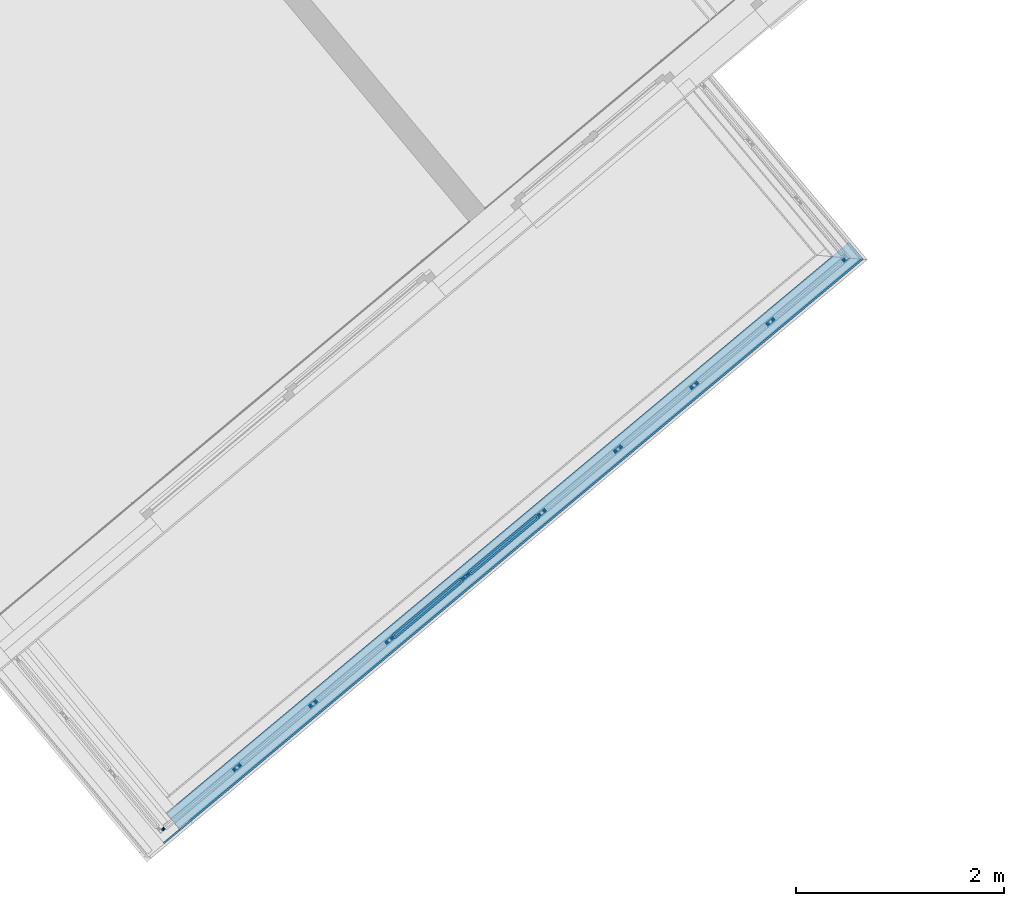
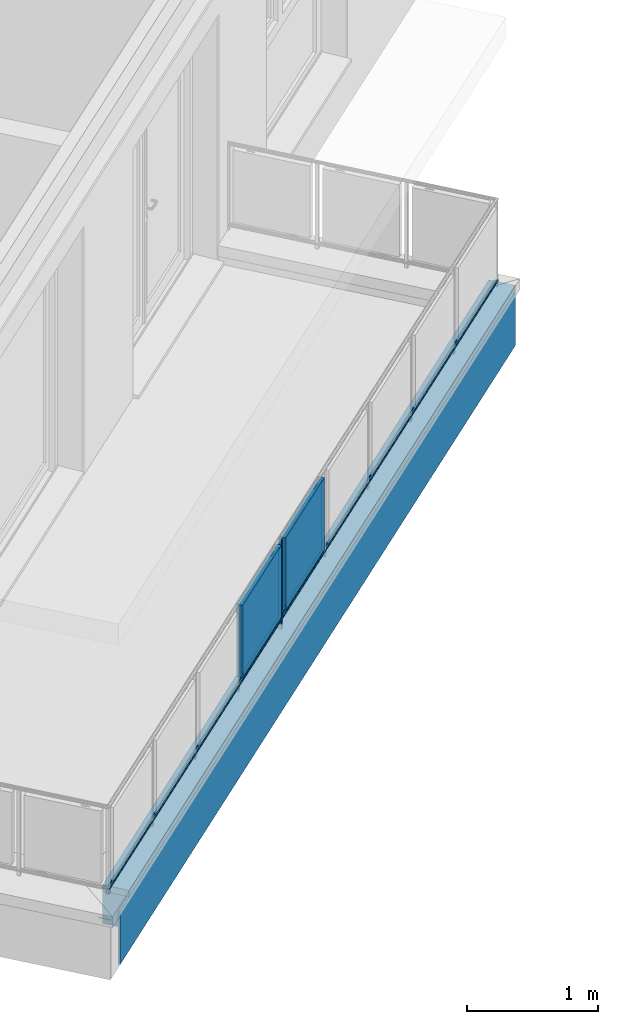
# One storey, part 21 of 53: 9 building element parts, 2 elements without a shape of their own.
"""IFC4 building model written with IfcOpenShell, lengths in metres."""

from ifc_helpers import new_model, entity, si_unit, converted_unit, derived_unit, direction, frame, origin_with_axes, place, context, subcontext, project, spatial, polygons, material, type_object, element, aggregate, save


model = new_model("IFC4")

# Units and contexts
model_context = context("Model", 3, precision=1e-05, world=origin_with_axes(), true_north=direction((0.0, 1.0)))
body_context = subcontext(model_context, "Body", "Model", "MODEL_VIEW")
ifc_project = project(units=[si_unit("LENGTHUNIT", "METRE"), si_unit("AREAUNIT", "SQUARE_METRE"), si_unit("VOLUMEUNIT", "CUBIC_METRE"), converted_unit("PLANEANGLEUNIT", "DEGREE", entity("IfcPlaneAngleMeasure", 0.0174532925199), si_unit("PLANEANGLEUNIT", "RADIAN"), dimensions=[0, 0, 0, 0, 0, 0, 0]), converted_unit("TIMEUNIT", "Year", entity("IfcTimeMeasure", 31556926.0), si_unit("TIMEUNIT", "SECOND"), dimensions=[0, 0, 1, 0, 0, 0, 0]), si_unit("MASSUNIT", "GRAM", prefix="KILO"), si_unit("THERMODYNAMICTEMPERATUREUNIT", "DEGREE_CELSIUS"), si_unit("LUMINOUSINTENSITYUNIT", "LUMEN"), si_unit("ENERGYUNIT", "JOULE", prefix="MEGA"), derived_unit("THERMALCONDUCTANCEUNIT", [(si_unit("POWERUNIT", "WATT"), 1), (si_unit("LENGTHUNIT", "METRE"), -1), (si_unit("THERMODYNAMICTEMPERATUREUNIT", "KELVIN"), -1)]), derived_unit("SPECIFICHEATCAPACITYUNIT", [(si_unit("ENERGYUNIT", "JOULE"), 1), (si_unit("MASSUNIT", "GRAM", prefix="KILO"), -1), (si_unit("THERMODYNAMICTEMPERATUREUNIT", "KELVIN"), -1)]), derived_unit("MASSDENSITYUNIT", [(si_unit("MASSUNIT", "GRAM", prefix="KILO"), 1), (si_unit("VOLUMEUNIT", "CUBIC_METRE"), -1)])], contexts=[model_context])

# Site, building, storey
site_placement = place(None, frame((-0.00153261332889, -0.00661245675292, 0.0), z_axis=(0.0, 0.0, 1.0), x_axis=(1.0, 0.0, 0.0)))
site = spatial("IfcSite", under=ifc_project, at=site_placement, Name="Gelände", CompositionType="ELEMENT")
building_placement = place(site_placement, origin_with_axes())
building = spatial("IfcBuilding", under=site, at=building_placement, Name="Gebäude", CompositionType="ELEMENT")
storey_placement = place(building_placement, frame((0.0, 0.0, 2.74), z_axis=(0.0, 0.0, 1.0), x_axis=(1.0, 0.0, 0.0)))
storey = spatial("IfcBuildingStorey", under=building, at=storey_placement, Name="OG1", CompositionType="ELEMENT", Elevation=2.74)

# Wall, building element parts
wall_type = type_object("IfcWallType", Name="Bauteil - Attika Balkon 356 x 610", PredefinedType="NOTDEFINED")
wall_placement = place(storey_placement, frame((0.456081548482, 6.75437498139, -0.2), z_axis=(0.0, 0.0, 1.0), x_axis=(0.767288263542, 0.641302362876, 0.0)))
wall = element("IfcWall", 1, at=wall_placement, inside=storey, type_object=wall_type, Name="Wand-003", PredefinedType="NOTDEFINED")
ifc_material_1 = material(Name="Stahlbeton")
building_element_part_1_placement = place(wall_placement, origin_with_axes())
building_element_part_1 = element("IfcBuildingElementPart", 2, at=building_element_part_1_placement, material=ifc_material_1, Name="Stahlbeton", PredefinedType="NOTDEFINED", context=body_context, shape_type="Tessellation", body=[
    polygons([(8.73385592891, -0.19999996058, 0.498915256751), (8.73385592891, -0.199999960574, 0.500000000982), (0.199908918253, -0.199999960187, 0.500000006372), (0.199908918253, -0.19999996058, 0.498915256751), (0.199908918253, -0.19999996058, 0.498822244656), (0.199908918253, -0.19999996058, 0.496604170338), (0.199908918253, -0.19999996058, 0.491006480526), (0.199908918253, -0.19999996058, 0.488695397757), (0.199908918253, -0.19999996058, 0.334999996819), (0.199908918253, -0.19999996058, 0.200000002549), (8.73385592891, -0.19999996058, 0.2), (8.73385592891, -0.19999996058, 0.334999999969), (8.73385592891, -0.19999996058, 0.496604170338), (8.73340609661, -1.0464678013e-09, 0.500000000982), (8.73340609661, -1.04714992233e-09, 0.498915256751), (0.200000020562, -6.59100329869e-10, 0.500000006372), (0.200000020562, -1.04714903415e-09, 0.498915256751), (0.200000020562, -1.04714903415e-09, 0.498822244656), (0.200000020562, -1.04714903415e-09, 0.496604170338), (0.200000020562, -1.04714903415e-09, 0.491006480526), (0.200000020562, -1.04714903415e-09, 0.488695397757), (0.200000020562, -1.05297282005e-09, 0.334999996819), (0.200000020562, -1.05297193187e-09, 0.200000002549), (8.73340609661, -1.05297282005e-09, 0.2), (8.73340609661, -1.05297282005e-09, 0.334999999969), (8.73340609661, -1.04714992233e-09, 0.496604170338)], [[[1, 2, 3, 4, 5, 6, 7, 8, 9, 10, 11, 12, 13]], [[14, 2, 1, 15]], [[2, 14, 16, 3]], [[4, 3, 16, 17]], [[4, 17, 18, 5]], [[5, 18, 19, 6]], [[6, 19, 20, 7]], [[7, 20, 21, 8]], [[8, 21, 22, 9]], [[9, 22, 23, 10]], [[24, 11, 10, 23]], [[25, 12, 11, 24]], [[26, 13, 12, 25]], [[15, 1, 13, 26]], [[14, 15, 26, 25, 22, 21, 20, 19, 18, 17, 16]], [[25, 24, 23, 22]]], closed=True),
])
ifc_material_2 = material(Name="Brettschichtholz")
building_element_part_2_placement = place(wall_placement, origin_with_axes())
building_element_part_2 = element("IfcBuildingElementPart", 3, at=building_element_part_2_placement, material=ifc_material_2, Name="Brettschichtholz", PredefinedType="NOTDEFINED", context=body_context, shape_type="Tessellation", body=[
    polygons([(0.200000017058, 0.0, 0.51136132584), (0.199902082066, -0.214999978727, 0.51136132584), (0.199902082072, -0.214999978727, 0.511410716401), (0.200000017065, 0.0, 0.511410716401), (0.200000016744, 0.0, 0.509099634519), (0.199902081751, -0.214999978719, 0.509099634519), (0.199902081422, -0.214999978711, 0.506731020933), (0.199902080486, -0.214999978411, 0.500000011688), (8.7488897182, -0.214999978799, 0.499999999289), (8.7488897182, -0.214999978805, 0.509099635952), (8.74888971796, -0.214999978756, 0.511410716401), (8.74888971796, -0.214999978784, 0.519273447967), (8.74888971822, -0.214999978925, 0.56000000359), (0.19990208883, -0.214999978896, 0.560000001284), (0.199902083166, -0.214999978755, 0.519273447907), (0.199902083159, -0.214999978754, 0.519224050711), (0.199902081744, -0.214999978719, 0.509050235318), (0.200000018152, 0.0, 0.519224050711), (0.200000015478, 3.31760396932e-10, 0.500000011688), (0.200000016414, 0.0, 0.506731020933), (0.200000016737, 0.0, 0.509050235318), (0.200000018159, 0.0, 0.519273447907), (0.200000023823, -1.53405288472e-10, 0.560000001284), (8.74840614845, -1.82521553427e-10, 0.56000000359), (8.74840614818, 0.0, 0.519273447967), (8.74840614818, 0.0, 0.511410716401), (8.74840614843, 0.0, 0.509099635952), (8.74840614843, 0.0, 0.499999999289), (8.74842896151, -0.010142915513, 0.559999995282), (8.74856391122, -0.0701429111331, 0.559999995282), (8.74869882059, -0.130124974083, 0.559999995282), (8.74883377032, -0.190124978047, 0.559999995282), (0.199913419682, -0.190124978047, 0.559999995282), (0.199940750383, -0.130124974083, 0.559999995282), (0.19996807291, -0.0701429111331, 0.559999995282), (0.199995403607, -0.010142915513, 0.559999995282)], [[[1, 2, 3, 4]], [[5, 6, 2, 1]], [[7, 8, 9, 10, 11, 12, 13, 14, 15, 16, 3, 2, 6, 17]], [[4, 3, 16, 18]], [[19, 20, 21, 5, 1, 4, 18, 22, 23, 24, 25, 26, 27, 28]], [[6, 5, 21, 17]], [[19, 8, 7, 20]], [[8, 19, 28, 9]], [[28, 27, 10, 9]], [[27, 26, 11, 10]], [[26, 25, 12, 11]], [[29, 30, 31, 32, 13, 12, 25, 24]], [[33, 14, 13, 32]], [[34, 35, 36, 23, 22, 15, 14, 33]], [[18, 16, 15, 22]], [[20, 7, 17, 21]], [[23, 36, 29, 24]], [[36, 35, 30, 29]], [[35, 34, 31, 30]], [[34, 33, 32, 31]]], closed=True),
])
ifc_material_3 = material(Name="Zementputz")
building_element_part_3_placement = place(wall_placement, origin_with_axes())
building_element_part_3 = element("IfcBuildingElementPart", 4, at=building_element_part_3_placement, material=ifc_material_3, Name="Zementputz", PredefinedType="NOTDEFINED", context=body_context, shape_type="Tessellation", body=[
    polygons([(-9.11052132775e-05, -0.19999996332, 0.500000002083), (-9.79378946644e-05, -0.214999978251, 0.500000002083), (8.7488897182, -0.214999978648, 0.499999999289), (8.74885598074, -0.199999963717, 0.499999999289), (-9.79378955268e-05, -0.214999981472, 0.498915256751), (-9.11052128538e-05, -0.199999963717, 0.498915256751), (-9.79378954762e-05, -0.214999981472, 0.498822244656), (-9.79378942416e-05, -0.214999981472, 0.496604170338), (-9.7937891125e-05, -0.214999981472, 0.491006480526), (-9.79378898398e-05, -0.214999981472, 0.488695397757), (-9.79378042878e-05, -0.214999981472, 0.335), (-9.79377291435e-05, -0.214999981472, 0.200000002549), (-9.79378948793e-05, -0.214999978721, 0.0), (8.7488884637, -0.214999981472, 0.0), (8.74885477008, -0.199999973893, 0.0), (8.74885598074, -0.199999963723, 0.200000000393), (-9.1105046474e-05, -0.199999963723, 0.200000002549), (-9.11051216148e-05, -0.199999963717, 0.335), (-9.11052071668e-05, -0.199999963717, 0.488695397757), (-9.11052084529e-05, -0.199999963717, 0.491006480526), (-9.11052115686e-05, -0.199999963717, 0.496604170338), (-9.11052128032e-05, -0.199999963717, 0.498822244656), (-9.11052168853e-05, -0.199999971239, 0.0)], [[[1, 2, 3, 4]], [[5, 2, 1, 6]], [[2, 5, 7, 8, 9, 10, 11, 12, 13, 14, 3]], [[4, 3, 14, 15, 16]], [[6, 1, 4, 16, 17, 18, 19, 20, 21, 22]], [[5, 6, 22, 7]], [[7, 22, 21, 8]], [[8, 21, 20, 9]], [[9, 20, 19, 10]], [[10, 19, 18, 11]], [[11, 18, 17, 12]], [[12, 17, 23, 13]], [[13, 23, 15, 14]], [[23, 17, 16, 15]]], closed=True),
])
aggregate(wall, [building_element_part_1, building_element_part_2, building_element_part_3])

# Space
space_placement = place(storey_placement, frame((5.82112883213, 13.939405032, 0.22), z_axis=(0.0, 0.0, 1.0), x_axis=(-0.766948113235, -0.641709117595, 0.0)))
space = spatial("IfcSpace", under=storey, at=space_placement, CompositionType="ELEMENT", PredefinedType="NOTDEFINED")

# Railing, building element parts
railing_type = type_object("IfcRailingType", Name="Geländerart", PredefinedType="NOTDEFINED")
railing_placement = place(space_placement, frame((8.7233739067, 0.0, 0.16), z_axis=(0.0, 0.0, 1.0), x_axis=(-0.766948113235, 0.641709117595, 0.0)))
railing = element("IfcRailing", 5, at=railing_placement, inside=space, type_object=railing_type, Name="Geländer - 001", PredefinedType="NOTDEFINED")
ifc_material_4 = material(Name="Aluminium")
building_element_part_4_placement = place(railing_placement, origin_with_axes())
building_element_part_4 = element("IfcBuildingElementPart", 6, at=building_element_part_4_placement, material=ifc_material_4, Name="Aluminium", PredefinedType="NOTDEFINED", context=body_context, shape_type="Tessellation", body=[
    polygons([(1.43045725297, -1.61164879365, 0.07), (1.43042846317, -1.61196985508, 0.072604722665), (7.99343033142, 3.8734113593, 0.072604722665), (7.99310948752, 3.8734401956, 0.07), (1.43042846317, -1.61196985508, 0.067395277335), (1.43034296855, -1.61292328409, 0.0648696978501), (1.43020336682, -1.61448011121, 0.0625), (1.43001389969, -1.61659303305, 0.0603581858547), (1.42978032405, -1.61919784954, 0.0585093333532), (1.42950973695, -1.62221541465, 0.0570096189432), (1.42921036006, -1.62555404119, 0.0559046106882), (1.42889128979, -1.62911228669, 0.0552278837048), (1.42856222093, -1.63278203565, 0.055), (1.42823315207, -1.63645178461, 0.0552278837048), (1.4279140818, -1.64001003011, 0.0559046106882), (1.42761470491, -1.64334865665, 0.0570096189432), (1.42734411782, -1.64636622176, 0.0585093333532), (1.42711054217, -1.64897103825, 0.0603581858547), (1.42692107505, -1.65108396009, 0.0625), (1.42678147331, -1.65264078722, 0.0648696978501), (1.42669597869, -1.65359421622, 0.067395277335), (1.42666718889, -1.65391527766, 0.07), (1.42669597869, -1.65359421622, 0.072604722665), (1.42678147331, -1.65264078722, 0.0751303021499), (1.42692107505, -1.65108396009, 0.0775), (1.42711054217, -1.64897103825, 0.0796418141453), (1.42734411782, -1.64636622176, 0.0814906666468), (1.42761470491, -1.64334865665, 0.0829903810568), (1.4279140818, -1.64001003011, 0.0840953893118), (1.42823315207, -1.63645178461, 0.0847721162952), (1.42856222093, -1.63278203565, 0.085), (1.42889128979, -1.62911228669, 0.0847721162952), (1.42921036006, -1.62555404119, 0.0840953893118), (1.42950973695, -1.62221541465, 0.0829903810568), (1.42978032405, -1.61919784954, 0.0814906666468), (1.43001389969, -1.61659303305, 0.0796418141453), (1.43020336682, -1.61448011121, 0.0775), (1.43034296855, -1.61292328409, 0.0751303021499), (7.99438311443, 3.87332572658, 0.0751303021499), (7.99593888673, 3.87318589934, 0.0775), (7.99805037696, 3.87299612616, 0.0796418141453), (8.00065342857, 3.87276217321, 0.0814906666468), (8.00366894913, 3.87249114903, 0.0829903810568), (8.0070053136, 3.87219128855, 0.0840953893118), (8.01056114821, 3.87187170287, 0.0847721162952), (8.01422841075, 3.87154210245, 0.085), (8.01789567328, 3.87121250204, 0.0847721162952), (8.02145150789, 3.87089291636, 0.0840953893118), (8.02478787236, 3.87059305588, 0.0829903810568), (8.02780339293, 3.8703220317, 0.0814906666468), (8.03040644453, 3.87008807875, 0.0796418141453), (8.03251793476, 3.86989830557, 0.0775), (8.03407370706, 3.86975847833, 0.0751303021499), (8.03502649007, 3.86967284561, 0.072604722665), (8.03534733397, 3.86964400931, 0.07), (8.03502649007, 3.86967284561, 0.067395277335), (8.03407370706, 3.86975847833, 0.0648696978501), (8.03251793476, 3.86989830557, 0.0625), (8.03040644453, 3.87008807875, 0.0603581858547), (8.02780339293, 3.8703220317, 0.0585093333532), (8.02478787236, 3.87059305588, 0.0570096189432), (8.02145150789, 3.87089291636, 0.0559046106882), (8.01789567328, 3.87121250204, 0.0552278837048), (8.01422841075, 3.87154210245, 0.055), (8.01056114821, 3.87187170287, 0.0552278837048), (8.0070053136, 3.87219128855, 0.0559046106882), (8.00366894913, 3.87249114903, 0.0570096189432), (8.00065342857, 3.87276217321, 0.0585093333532), (7.99805037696, 3.87299612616, 0.0603581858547), (7.99593888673, 3.87318589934, 0.0625), (7.99438311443, 3.87332572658, 0.0648696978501), (7.99343033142, 3.8734113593, 0.067395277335)], [[[1, 2, 3, 4]], [[1, 5, 6, 7, 8, 9, 10, 11, 12, 13, 14, 15, 16, 17, 18, 19, 20, 21, 22, 23, 24, 25, 26, 27, 28, 29, 30, 31, 32, 33, 34, 35, 36, 37, 38, 2]], [[2, 38, 39, 3]], [[4, 3, 39, 40, 41, 42, 43, 44, 45, 46, 47, 48, 49, 50, 51, 52, 53, 54, 55, 56, 57, 58, 59, 60, 61, 62, 63, 64, 65, 66, 67, 68, 69, 70, 71, 72]], [[5, 1, 4, 72]], [[6, 5, 72, 71]], [[7, 6, 71, 70]], [[8, 7, 70, 69]], [[9, 8, 69, 68]], [[10, 9, 68, 67]], [[11, 10, 67, 66]], [[12, 11, 66, 65]], [[13, 12, 65, 64]], [[14, 13, 64, 63]], [[15, 14, 63, 62]], [[16, 15, 62, 61]], [[17, 16, 61, 60]], [[18, 17, 60, 59]], [[19, 18, 59, 58]], [[20, 19, 58, 57]], [[21, 20, 57, 56]], [[22, 21, 56, 55]], [[23, 22, 55, 54]], [[24, 23, 54, 53]], [[25, 24, 53, 52]], [[26, 25, 52, 51]], [[27, 26, 51, 50]], [[28, 27, 50, 49]], [[29, 28, 49, 48]], [[30, 29, 48, 47]], [[31, 30, 47, 46]], [[32, 31, 46, 45]], [[33, 32, 45, 44]], [[34, 33, 44, 43]], [[35, 34, 43, 42]], [[36, 35, 42, 41]], [[37, 36, 41, 40]], [[38, 37, 40, 39]]], closed=True),
])
ifc_material_5 = material(Name="Profilit")
building_element_part_5_placement = place(railing_placement, origin_with_axes())
building_element_part_5 = element("IfcBuildingElementPart", 7, at=building_element_part_5_placement, material=ifc_material_5, Name="Profilit", PredefinedType="NOTDEFINED", context=body_context, shape_type="Tessellation", body=[
    polygons([(4.29923821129, 0.77957247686, 0.135), (3.66724499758, 0.25135021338, 0.135), (3.66724499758, 0.25135021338, 0.775), (4.29923821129, 0.77957247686, 0.775), (3.68007104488, 0.236004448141, 0.135), (4.31206425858, 0.764226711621, 0.135), (3.68007104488, 0.236004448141, 0.775), (4.31206425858, 0.764226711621, 0.775)], [[[1, 2, 3, 4]], [[5, 2, 1, 6]], [[7, 3, 2, 5]], [[4, 3, 7, 8]], [[1, 4, 8, 6]], [[7, 5, 6, 8]]], closed=True),
])
building_element_part_6_placement = place(railing_placement, origin_with_axes())
building_element_part_6 = element("IfcBuildingElementPart", 8, at=building_element_part_6_placement, material=ifc_material_4, Name="Aluminium", PredefinedType="NOTDEFINED", context=body_context, shape_type="Tessellation", body=[
    polygons([(3.73727426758, 0.300106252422, 0.12), (3.79098444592, 0.344997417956, 0.12), (3.79098444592, 0.344997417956, 0.095), (3.73727426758, 0.300106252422, 0.095), (3.74048077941, 0.296269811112, 0.12), (3.79419095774, 0.341160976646, 0.12), (3.79419095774, 0.341160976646, 0.095), (3.74048077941, 0.296269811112, 0.095)], [[[1, 2, 3, 4]], [[5, 6, 2, 1]], [[2, 6, 7, 3]], [[4, 3, 7, 8]], [[1, 4, 8, 5]], [[8, 7, 6, 5]]], closed=True),
    polygons([(4.23882847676, 0.719307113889, 0.79), (4.18511829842, 0.674415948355, 0.79), (4.18511829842, 0.674415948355, 0.795), (4.23882847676, 0.719307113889, 0.795), (4.24203498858, 0.71547067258, 0.79), (4.18832481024, 0.670579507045, 0.79), (4.18832481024, 0.670579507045, 0.795), (4.24203498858, 0.71547067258, 0.795)], [[[1, 2, 3, 4]], [[5, 6, 2, 1]], [[2, 6, 7, 3]], [[4, 3, 7, 8]], [[1, 4, 8, 5]], [[8, 7, 6, 5]]], closed=True),
    polygons([(3.67818125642, 0.21487558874, 0.12), (3.64611613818, 0.253240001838, 0.12), (4.30112799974, 0.800701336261, 0.12), (4.33319311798, 0.762336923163, 0.12), (3.69352702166, 0.227701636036, 0.14), (3.68390748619, 0.239210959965, 0.14), (3.68007104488, 0.236004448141, 0.135), (3.66724499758, 0.25135021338, 0.135), (3.67108143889, 0.254556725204, 0.14), (3.66146190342, 0.266066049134, 0.14), (4.2857822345, 0.787875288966, 0.14), (4.2857822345, 0.787875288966, 0.77), (3.66146190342, 0.266066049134, 0.77), (3.66146190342, 0.266066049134, 0.14), (3.64611613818, 0.253240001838, 0.12), (3.64611613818, 0.253240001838, 0.79), (4.30112799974, 0.800701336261, 0.79), (4.33319311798, 0.762336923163, 0.79), (3.67818125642, 0.21487558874, 0.79), (3.67818125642, 0.21487558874, 0.12), (3.69352702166, 0.227701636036, 0.14), (3.69352702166, 0.227701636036, 0.77), (4.31784735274, 0.749510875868, 0.77), (4.31784735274, 0.749510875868, 0.14), (4.30822781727, 0.761020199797, 0.14), (4.30822781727, 0.761020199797, 0.77), (3.68390748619, 0.239210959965, 0.77), (3.68390748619, 0.239210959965, 0.14), (3.68007104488, 0.236004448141, 0.135), (3.68007104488, 0.236004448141, 0.775), (4.31206425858, 0.764226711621, 0.775), (4.31206425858, 0.764226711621, 0.135), (4.29923821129, 0.77957247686, 0.135), (4.29923821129, 0.77957247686, 0.775), (3.66724499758, 0.25135021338, 0.775), (3.66724499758, 0.25135021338, 0.135), (3.67108143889, 0.254556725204, 0.14), (3.67108143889, 0.254556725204, 0.77), (4.29540176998, 0.776365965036, 0.77), (4.29540176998, 0.776365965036, 0.14)], [[[1, 2, 3, 4]], [[1, 5, 6, 7, 8, 9, 10, 2]], [[2, 10, 11, 12, 13, 14, 15, 16, 17, 3]], [[4, 3, 17, 18]], [[5, 1, 4, 18, 19, 20, 21, 22, 23, 24]], [[6, 5, 24, 25]], [[7, 6, 25, 26, 27, 28, 29, 30, 31, 32]], [[8, 7, 32, 33]], [[9, 8, 33, 34, 35, 36, 37, 38, 39, 40]], [[10, 9, 40, 11]], [[11, 40, 39, 12]], [[12, 39, 38, 13]], [[13, 38, 37, 14]], [[20, 15, 14, 37, 36, 29, 28, 21]], [[19, 16, 15, 20]], [[18, 17, 16, 19]], [[27, 22, 21, 28]], [[26, 23, 22, 27]], [[25, 24, 23, 26]], [[35, 30, 29, 36]], [[34, 31, 30, 35]], [[33, 32, 31, 34]]], closed=True),
])
building_element_part_7_placement = place(railing_placement, origin_with_axes())
building_element_part_7 = element("IfcBuildingElementPart", 9, at=building_element_part_7_placement, material=ifc_material_4, Name="Aluminium", PredefinedType="NOTDEFINED", context=body_context, shape_type="Tessellation", body=[
    polygons([(4.37313235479, 0.812009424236, -0.3), (4.35709979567, 0.831191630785, -0.3), (4.35709979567, 0.831191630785, 0.82), (4.37313235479, 0.812009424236, 0.82), (4.35395014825, 0.795976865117, -0.3), (4.33791758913, 0.815159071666, -0.3), (4.33791758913, 0.815159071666, 0.82), (4.35395014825, 0.795976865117, 0.82)], [[[1, 2, 3, 4]], [[1, 5, 6, 2]], [[2, 6, 7, 3]], [[4, 3, 7, 8]], [[5, 1, 4, 8]], [[6, 5, 8, 7]]], closed=True),
])
building_element_part_8_placement = place(railing_placement, origin_with_axes())
building_element_part_8 = element("IfcBuildingElementPart", 10, at=building_element_part_8_placement, material=ifc_material_5, Name="Profilit", PredefinedType="NOTDEFINED", context=body_context, shape_type="Tessellation", body=[
    polygons([(5.03097889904, 1.39116404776, 0.135), (4.39898568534, 0.862941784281, 0.135), (4.39898568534, 0.862941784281, 0.775), (5.03097889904, 1.39116404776, 0.775), (4.41181173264, 0.847596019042, 0.135), (5.04380494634, 1.37581828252, 0.135), (4.41181173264, 0.847596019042, 0.775), (5.04380494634, 1.37581828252, 0.775)], [[[1, 2, 3, 4]], [[5, 2, 1, 6]], [[7, 3, 2, 5]], [[4, 3, 7, 8]], [[1, 4, 8, 6]], [[7, 5, 6, 8]]], closed=True),
])
building_element_part_9_placement = place(railing_placement, origin_with_axes())
building_element_part_9 = element("IfcBuildingElementPart", 11, at=building_element_part_9_placement, material=ifc_material_4, Name="Aluminium", PredefinedType="NOTDEFINED", context=body_context, shape_type="Tessellation", body=[
    polygons([(4.46901495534, 0.911697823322, 0.12), (4.52272513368, 0.956588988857, 0.12), (4.52272513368, 0.956588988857, 0.095), (4.46901495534, 0.911697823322, 0.095), (4.47222146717, 0.907861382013, 0.12), (4.5259316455, 0.952752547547, 0.12), (4.5259316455, 0.952752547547, 0.095), (4.47222146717, 0.907861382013, 0.095)], [[[1, 2, 3, 4]], [[5, 6, 2, 1]], [[2, 6, 7, 3]], [[4, 3, 7, 8]], [[1, 4, 8, 5]], [[8, 7, 6, 5]]], closed=True),
    polygons([(4.97056916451, 1.33089868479, 0.79), (4.91685898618, 1.28600751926, 0.79), (4.91685898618, 1.28600751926, 0.795), (4.97056916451, 1.33089868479, 0.795), (4.97377567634, 1.32706224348, 0.79), (4.920065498, 1.28217107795, 0.79), (4.920065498, 1.28217107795, 0.795), (4.97377567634, 1.32706224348, 0.795)], [[[1, 2, 3, 4]], [[5, 6, 2, 1]], [[2, 6, 7, 3]], [[4, 3, 7, 8]], [[1, 4, 8, 5]], [[8, 7, 6, 5]]], closed=True),
    polygons([(4.40992194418, 0.826467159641, 0.12), (4.37785682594, 0.864831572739, 0.12), (5.0328686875, 1.41229290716, 0.12), (5.06493380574, 1.37392849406, 0.12), (4.42526770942, 0.839293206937, 0.14), (4.41564817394, 0.850802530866, 0.14), (4.41181173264, 0.847596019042, 0.135), (4.39898568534, 0.862941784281, 0.135), (4.40282212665, 0.866148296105, 0.14), (4.39320259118, 0.877657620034, 0.14), (5.01752292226, 1.39946685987, 0.14), (5.01752292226, 1.39946685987, 0.77), (4.39320259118, 0.877657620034, 0.77), (4.39320259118, 0.877657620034, 0.14), (4.37785682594, 0.864831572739, 0.12), (4.37785682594, 0.864831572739, 0.79), (5.0328686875, 1.41229290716, 0.79), (5.06493380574, 1.37392849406, 0.79), (4.40992194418, 0.826467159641, 0.79), (4.40992194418, 0.826467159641, 0.12), (4.42526770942, 0.839293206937, 0.14), (4.42526770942, 0.839293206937, 0.77), (5.0495880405, 1.36110244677, 0.77), (5.0495880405, 1.36110244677, 0.14), (5.03996850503, 1.3726117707, 0.14), (5.03996850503, 1.3726117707, 0.77), (4.41564817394, 0.850802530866, 0.77), (4.41564817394, 0.850802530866, 0.14), (4.41181173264, 0.847596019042, 0.135), (4.41181173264, 0.847596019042, 0.775), (5.04380494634, 1.37581828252, 0.775), (5.04380494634, 1.37581828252, 0.135), (5.03097889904, 1.39116404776, 0.135), (5.03097889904, 1.39116404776, 0.775), (4.39898568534, 0.862941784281, 0.775), (4.39898568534, 0.862941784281, 0.135), (4.40282212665, 0.866148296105, 0.14), (4.40282212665, 0.866148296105, 0.77), (5.02714245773, 1.38795753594, 0.77), (5.02714245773, 1.38795753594, 0.14)], [[[1, 2, 3, 4]], [[1, 5, 6, 7, 8, 9, 10, 2]], [[2, 10, 11, 12, 13, 14, 15, 16, 17, 3]], [[4, 3, 17, 18]], [[5, 1, 4, 18, 19, 20, 21, 22, 23, 24]], [[6, 5, 24, 25]], [[7, 6, 25, 26, 27, 28, 29, 30, 31, 32]], [[8, 7, 32, 33]], [[9, 8, 33, 34, 35, 36, 37, 38, 39, 40]], [[10, 9, 40, 11]], [[11, 40, 39, 12]], [[12, 39, 38, 13]], [[13, 38, 37, 14]], [[20, 15, 14, 37, 36, 29, 28, 21]], [[19, 16, 15, 20]], [[18, 17, 16, 19]], [[27, 22, 21, 28]], [[26, 23, 22, 27]], [[25, 24, 23, 26]], [[35, 30, 29, 36]], [[34, 31, 30, 35]], [[33, 32, 31, 34]]], closed=True),
])
aggregate(railing, [building_element_part_4, building_element_part_5, building_element_part_6, building_element_part_7, building_element_part_8, building_element_part_9])

save(model, "model.ifc")
